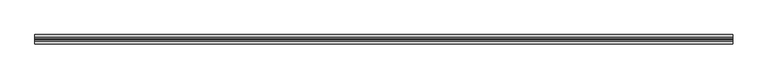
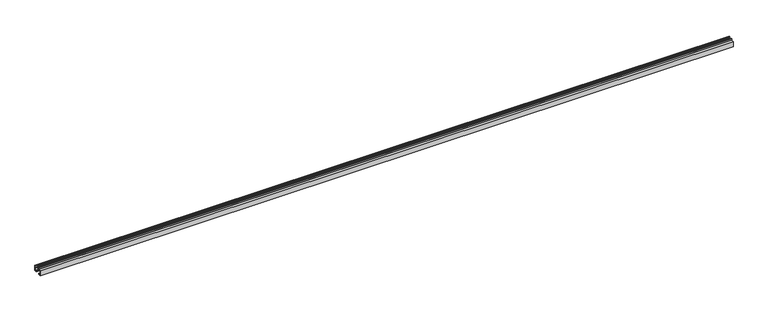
"""IFC4 building model written with IfcOpenShell, lengths in millimetres: proxy geometry, durlum_W2053 : durlum_W2053."""

from ifc_helpers import new_model, si_unit, frame, origin, place, context, project, spatial, polyline, outline, extrude, source, transform, mapped, element, save


def generic_models_743fb40c(model_context):
    return source(origin(), model_context, "Body", "SweptSolid", [
        extrude(outline(polyline([(-12.0, 7.0), (-12.0, 0.0), (-26.5, 0.0), (-26.5, 30.0), (-11.0, 30.0), (-11.0, 40.0), (-5.5, 40.0), (-5.5, 38.5), (-9.5, 38.5), (-9.5, 30.0), (9.5, 30.0), (9.5, 38.5), (5.5, 38.5), (5.5, 40.0), (11.0, 40.0), (11.0, 30.0), (26.5, 30.0), (26.5, 0.0), (12.0, 0.0), (12.0, 7.0), (13.5, 7.0), (13.5, 1.5), (25.0, 1.5), (25.0, 28.5), (-25.0, 28.5), (-25.0, 1.5), (-13.5, 1.5), (-13.5, 7.0), (-12.0, 7.0)])), frame((-2000.0, 0.0, 0.0), z_axis=(1.0, 0.0, 0.0), x_axis=(0.0, 1.0, 0.0)), (0.0, 0.0, 1.0), 4000.0),
    ])


if __name__ == "__main__":
    model = new_model("IFC4")
    model_context = context("Model", 3, world=origin())
    ifc_project = project(units=[si_unit("LENGTHUNIT", "METRE", prefix="MILLI")], contexts=[model_context])
    site = spatial("IfcSite", under=ifc_project)
    building = spatial("IfcBuilding", under=site)
    placement = place(None, origin())
    generic_models_shape = generic_models_743fb40c(model_context)
    element("IfcBuildingElementProxy", 1, Name="durlum_W2053 : durlum_W2053", ObjectType="durlum_W2053 : durlum_W2053", at=placement, inside=building, context=model_context, shape_type="MappedRepresentation", body=[
        mapped(generic_models_shape, transform((0.0, 0.0, 0.0), x_axis=(1.0, 0.0, 0.0), y_axis=(0.0, 1.0, 0.0), z_axis=(0.0, 0.0, 1.0))),
    ])
    save(model, "model.ifc")
